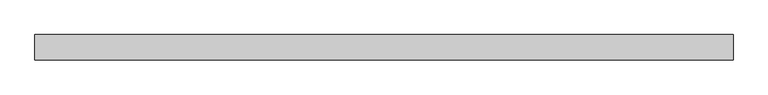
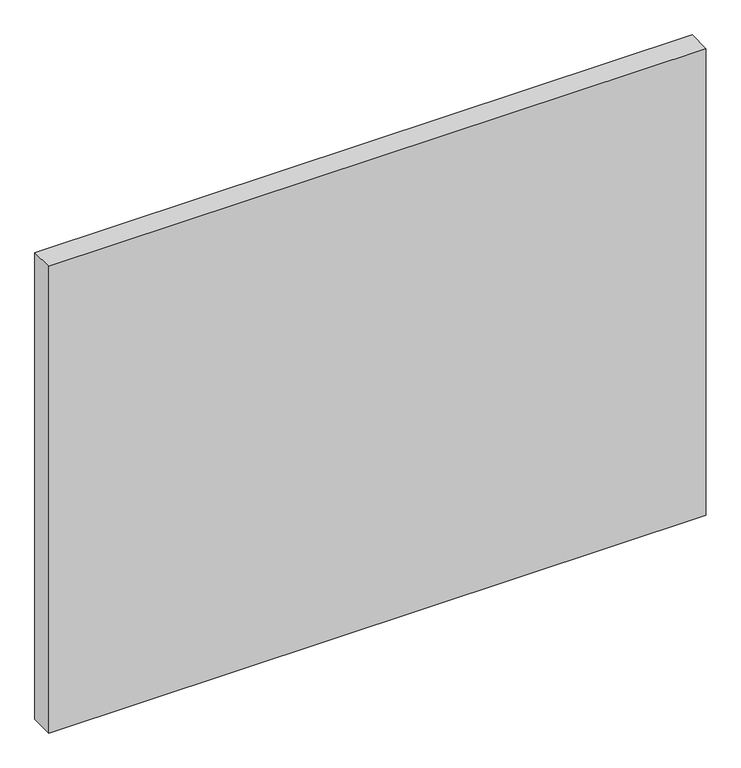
"""IFC4 building model written with IfcOpenShell, lengths in millimetres: plate geometry, Системная панель : Стекло(50мм)."""

from ifc_helpers import new_model, si_unit, origin, origin_with_axes, place, context, project, spatial, polyline, outline, extrude, source, transform, mapped, element, save


def plate_050975ec(model_context):
    return source(origin(), model_context, "Body", "SweptSolid", [
        extrude(outline(polyline([(690.0, -25.0), (-690.0, -25.0), (-690.0, 25.0), (690.0, 25.0), (690.0, -25.0)])), origin_with_axes(), (0.0, 0.0, 1.0), 1035.0),
    ])


if __name__ == "__main__":
    model = new_model("IFC4")
    model_context = context("Model", 3, world=origin())
    ifc_project = project(units=[si_unit("LENGTHUNIT", "METRE", prefix="MILLI")], contexts=[model_context])
    site = spatial("IfcSite", under=ifc_project)
    building = spatial("IfcBuilding", under=site)
    placement = place(None, origin())
    plate_shape = plate_050975ec(model_context)
    element("IfcPlate", 1, ObjectType="Системная панель : Стекло(50мм)", at=placement, inside=building, context=model_context, shape_type="MappedRepresentation", body=[
        mapped(plate_shape, transform((0.0, 0.0, 0.0), x_axis=(1.0, 0.0, 0.0), y_axis=(0.0, 1.0, 0.0), z_axis=(0.0, 0.0, 1.0))),
    ])
    save(model, "model.ifc")
